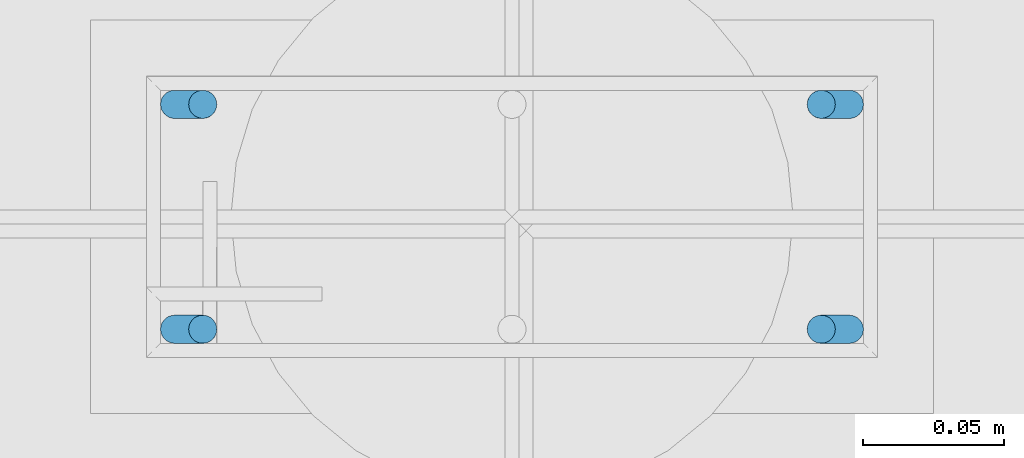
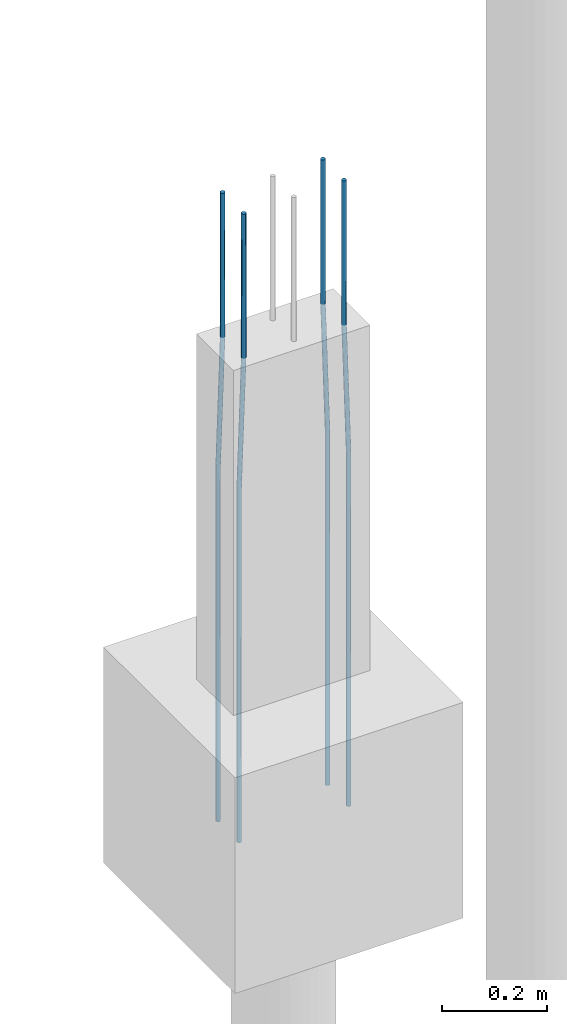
# One storey, part 27 of 119: 4 reinforcing bars.
"""IFC4 building model written with IfcOpenShell, lengths in centimetres."""

from ifc_helpers import new_model, entity, si_unit, derived_unit, frame, origin_with_axes, place, context, project, spatial, element, save


model = new_model("IFC4")

# Units and contexts
model_context = context("Model", 3, precision=1e-05, world=origin_with_axes(), identifier="Body")
ifc_project = project(units=[si_unit("LENGTHUNIT", "METRE", prefix="CENTI"), si_unit("VOLUMEUNIT", "CUBIC_METRE"), si_unit("AREAUNIT", "SQUARE_METRE"), si_unit("POWERUNIT", "WATT"), si_unit("LUMINOUSFLUXUNIT", "LUMEN"), si_unit("ELECTRICCURRENTUNIT", "AMPERE"), si_unit("PRESSUREUNIT", "PASCAL", prefix="KILO"), si_unit("MASSUNIT", "GRAM", prefix="KILO"), si_unit("PLANEANGLEUNIT", "RADIAN"), derived_unit("VOLUMETRICFLOWRATEUNIT", [(si_unit("LENGTHUNIT", "METRE"), 3), (si_unit("TIMEUNIT", "SECOND"), -1)])], contexts=[model_context])

# Site, building, storey
site_placement = place(None, frame((-4000.0, 0.0, 0.0), z_axis=(0.0, 0.0, 1.0), x_axis=(1.0, 0.0, 0.0)))
site = spatial("IfcSite", under=ifc_project, at=site_placement, Name="PADRÃO")
building_placement = place(site_placement, frame((0.0, 0.0, -14.0)))
building = spatial("IfcBuilding", under=site, at=building_placement, Name="CRECHE PRÉ-ESCOLA TIPO 2")
storey_placement = place(building_placement, origin_with_axes())
storey = spatial("IfcBuildingStorey", under=building, at=storey_placement, Name="FUNDAÇÃO", CompositionType="ELEMENT", Elevation=-14.0)

# Reinforcing bars
reinforcing_bar_1_placement = place(storey_placement, frame((1121.22, 3080.5, 33.3573001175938), z_axis=(0.0, 0.0, 1.0), x_axis=(1.0, 0.0, 0.0)))
element("IfcReinforcingBar", 1, at=reinforcing_bar_1_placement, inside=storey, Name="P58 - Longitudinal", BarLength=0.0, CrossSectionArea=7.853981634e-05, NominalDiameter=1.0, PredefinedType="MAIN", context=model_context, shape_type="AdvancedSweptSolid", body=[
    entity("IfcSweptDiskSolid", entity("IfcCompositeCurve", [entity("IfcCompositeCurveSegment", "CONTINUOUS", True, entity("IfcPolyline", [entity("IfcCartesianPoint", [0.5, 0.0, -145.357300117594]), entity("IfcCartesianPoint", [0.5, 0.0, -63.3573001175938])])), entity("IfcCompositeCurveSegment", "CONTINUOUS", True, entity("IfcPolyline", [entity("IfcCartesianPoint", [0.5, 0.0, -63.3573001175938]), entity("IfcCartesianPoint", [-0.5, 0.0, -33.3573001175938])])), entity("IfcCompositeCurveSegment", "CONTINUOUS", True, entity("IfcPolyline", [entity("IfcCartesianPoint", [-0.5, 0.0, -33.3573001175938]), entity("IfcCartesianPoint", [-0.5, 0.0, 0.0])]))], False), 0.5),
])
for number, where, z_axis, x_axis, name in (
    (2, (1098.22, 3080.5, 33.3573001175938), (0.0, 0.0, 1.0), (1.0, 0.0, 0.0), "P58 - Longitudinal"),
    (3, (1098.22, 3072.5, 33.3573001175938), (0.0, 0.0, 1.0), (1.0, 0.0, 0.0), "P58 - Longitudinal"),
):
    element("IfcReinforcingBar", number, at=place(storey_placement, frame(where, z_axis=z_axis, x_axis=x_axis)), inside=storey, Name=name, BarLength=0.0, CrossSectionArea=7.853981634e-05, NominalDiameter=1.0, PredefinedType="MAIN", context=model_context, shape_type="AdvancedSweptSolid", body=[
        entity("IfcSweptDiskSolid", entity("IfcCompositeCurve", [entity("IfcCompositeCurveSegment", "CONTINUOUS", True, entity("IfcPolyline", [entity("IfcCartesianPoint", [-0.5, 0.0, -145.357300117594]), entity("IfcCartesianPoint", [-0.5, 0.0, -63.3573001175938])])), entity("IfcCompositeCurveSegment", "CONTINUOUS", True, entity("IfcPolyline", [entity("IfcCartesianPoint", [-0.5, 0.0, -63.3573001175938]), entity("IfcCartesianPoint", [0.5, 0.0, -33.3573001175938])])), entity("IfcCompositeCurveSegment", "CONTINUOUS", True, entity("IfcPolyline", [entity("IfcCartesianPoint", [0.5, 0.0, -33.3573001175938]), entity("IfcCartesianPoint", [0.5, 0.0, 0.0])]))], False), 0.5),
    ])
reinforcing_bar_2_placement = place(storey_placement, frame((1121.22, 3072.5, 33.3573001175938), z_axis=(0.0, 0.0, 1.0), x_axis=(1.0, 0.0, 0.0)))
element("IfcReinforcingBar", 4, at=reinforcing_bar_2_placement, inside=storey, Name="P58 - Longitudinal", BarLength=0.0, CrossSectionArea=7.853981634e-05, NominalDiameter=1.0, PredefinedType="MAIN", context=model_context, shape_type="AdvancedSweptSolid", body=[
    entity("IfcSweptDiskSolid", entity("IfcCompositeCurve", [entity("IfcCompositeCurveSegment", "CONTINUOUS", True, entity("IfcPolyline", [entity("IfcCartesianPoint", [0.5, 0.0, -145.357300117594]), entity("IfcCartesianPoint", [0.5, 0.0, -63.3573001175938])])), entity("IfcCompositeCurveSegment", "CONTINUOUS", True, entity("IfcPolyline", [entity("IfcCartesianPoint", [0.5, 0.0, -63.3573001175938]), entity("IfcCartesianPoint", [-0.5, 0.0, -33.3573001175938])])), entity("IfcCompositeCurveSegment", "CONTINUOUS", True, entity("IfcPolyline", [entity("IfcCartesianPoint", [-0.5, 0.0, -33.3573001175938]), entity("IfcCartesianPoint", [-0.5, 0.0, 0.0])]))], False), 0.5),
])

save(model, "model.ifc")
